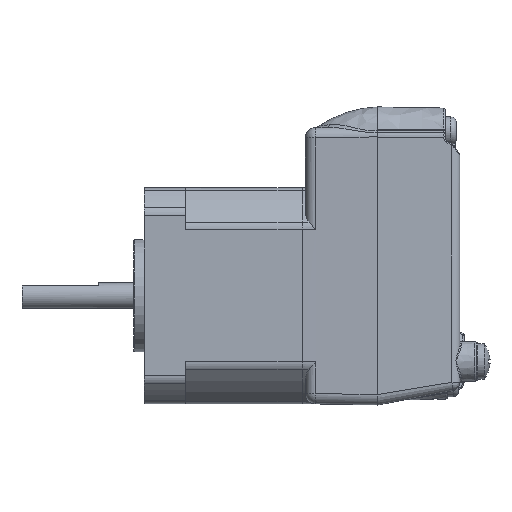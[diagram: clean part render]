
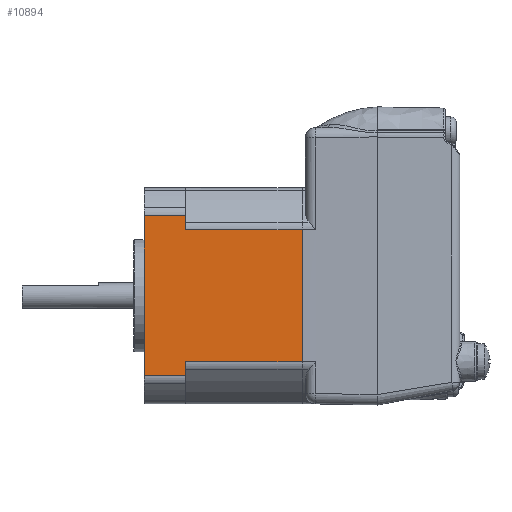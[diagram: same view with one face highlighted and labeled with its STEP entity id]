
A CAD part, left-side view. The second image highlights one B-rep face of the part: STEP entity #10894.
In plain terms, the highlighted planar face has unit normal (-1, 0, 0).
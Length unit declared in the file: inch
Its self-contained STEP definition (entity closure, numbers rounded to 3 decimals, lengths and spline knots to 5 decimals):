
#2335=CARTESIAN_POINT('',(-1.68441,2.77268,-0.66862));
#2336=VERTEX_POINT('',#2335);
#2344=CARTESIAN_POINT('',(-1.68441,2.77268,0.56285));
#2345=VERTEX_POINT('',#2344);
#2346=CARTESIAN_POINT('',(-1.68441,2.77268,0.57473));
#2347=DIRECTION('',(0.,0.,1.));
#2348=VECTOR('',#2347,1.);
#2349=LINE('',#2346,#2348);
#2350=EDGE_CURVE('',#2336,#2345,#2349,.T.);
#2626=CARTESIAN_POINT('',(-1.68441,2.45568,0.56285));
#2627=VERTEX_POINT('',#2626);
#2635=CARTESIAN_POINT('',(-1.68441,2.45568,0.45634));
#2636=VERTEX_POINT('',#2635);
#2637=CARTESIAN_POINT('',(-1.68441,2.45568,0.57473));
#2638=DIRECTION('',(0.,0.,1.));
#2639=VECTOR('',#2638,1.);
#2640=LINE('',#2637,#2639);
#2641=EDGE_CURVE('',#2636,#2627,#2640,.T.);
#2677=CARTESIAN_POINT('',(-1.68441,2.45568,-0.5621));
#2678=VERTEX_POINT('',#2677);
#2686=CARTESIAN_POINT('',(-1.68441,2.45568,-0.66862));
#2687=VERTEX_POINT('',#2686);
#2688=CARTESIAN_POINT('',(-1.68441,2.45568,0.57473));
#2689=DIRECTION('',(0.,0.,1.));
#2690=VECTOR('',#2689,1.);
#2691=LINE('',#2688,#2690);
#2692=EDGE_CURVE('',#2687,#2678,#2691,.T.);
#2912=CARTESIAN_POINT('',(-1.68441,2.77268,0.56285));
#2913=DIRECTION('',(0.,-1.,0.));
#2914=VECTOR('',#2913,1.);
#2915=LINE('',#2912,#2914);
#2916=EDGE_CURVE('',#2345,#2627,#2915,.T.);
#2964=CARTESIAN_POINT('',(-1.68441,2.77268,-0.66862));
#2965=DIRECTION('',(0.,1.,0.));
#2966=VECTOR('',#2965,1.);
#2967=LINE('',#2964,#2966);
#2968=EDGE_CURVE('',#2687,#2336,#2967,.T.);
#10587=CARTESIAN_POINT('',(-1.68444,1.55474,-0.5621));
#10588=VERTEX_POINT('',#10587);
#10589=CARTESIAN_POINT('',(-1.68441,1.57521,-0.5621));
#10590=DIRECTION('',(0.,1.,0.));
#10591=VECTOR('',#10590,1.);
#10592=LINE('',#10589,#10591);
#10593=EDGE_CURVE('',#10588,#2678,#10592,.T.);
#10843=CARTESIAN_POINT('',(-1.68438,1.55474,0.45633));
#10844=VERTEX_POINT('',#10843);
#10845=CARTESIAN_POINT('',(-1.68441,1.70281,0.45634));
#10846=DIRECTION('',(0.,1.,0.));
#10847=VECTOR('',#10846,1.);
#10848=LINE('',#10845,#10847);
#10849=EDGE_CURVE('',#10844,#2636,#10848,.T.);
#10874=ORIENTED_EDGE('',*,*,#2916,.F.);
#10875=ORIENTED_EDGE('',*,*,#2350,.F.);
#10876=ORIENTED_EDGE('',*,*,#2968,.F.);
#10877=ORIENTED_EDGE('',*,*,#2692,.T.);
#10878=ORIENTED_EDGE('',*,*,#10593,.F.);
#10879=CARTESIAN_POINT('',(-1.68438,1.55474,-0.33949));
#10880=DIRECTION('',(0.,0.,-1.));
#10881=VECTOR('',#10880,1.);
#10882=LINE('',#10879,#10881);
#10883=EDGE_CURVE('',#10844,#10588,#10882,.T.);
#10884=ORIENTED_EDGE('',*,*,#10883,.F.);
#10885=ORIENTED_EDGE('',*,*,#10849,.T.);
#10886=ORIENTED_EDGE('',*,*,#2641,.T.);
#10887=EDGE_LOOP('',(#10874,#10875,#10876,#10877,#10878,#10884,#10885,#10886));
#10888=FACE_OUTER_BOUND('',#10887,.T.);
#10889=CARTESIAN_POINT('',(-1.68441,1.57521,0.45633));
#10890=DIRECTION('',(-1.,0.,0.));
#10891=DIRECTION('',(0.,0.,1.));
#10892=AXIS2_PLACEMENT_3D('',#10889,#10890,#10891);
#10893=PLANE('',#10892);
#10894=ADVANCED_FACE('',(#10888),#10893,.T.);
